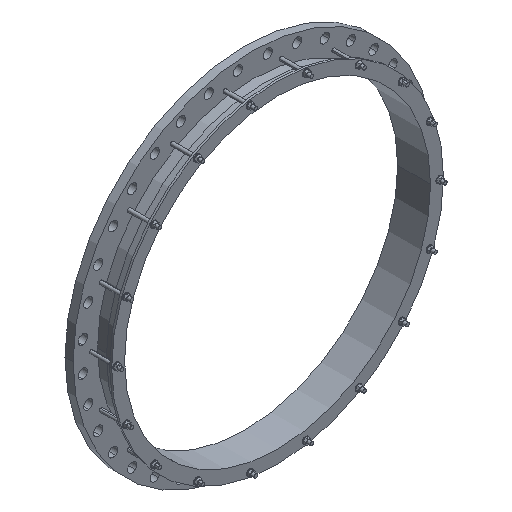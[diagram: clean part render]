
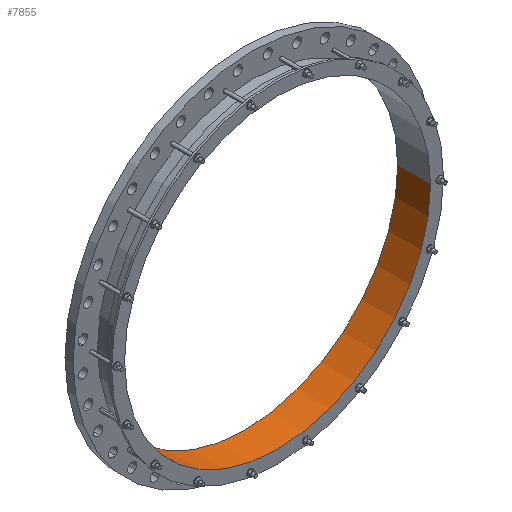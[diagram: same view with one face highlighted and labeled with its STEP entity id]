
A CAD part, isometric view. The second image highlights one B-rep face of the part: STEP entity #7855.
In plain terms, the highlighted cylindrical face has radius 712.75 mm (diameter 1425.5 mm), a partial arc.
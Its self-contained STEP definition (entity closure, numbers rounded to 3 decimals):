
#7=CARTESIAN_POINT('',(0.,38.,0.));
#8=DIRECTION('',(0.,1.,0.));
#9=DIRECTION('',(1.,0.,0.));
#10=AXIS2_PLACEMENT_3D('',#7,#8,#9);
#2138=CARTESIAN_POINT('',(0.,-115.,0.));
#2139=DIRECTION('',(0.,1.,0.));
#2140=DIRECTION('',(1.,0.,0.));
#2141=AXIS2_PLACEMENT_3D('',#2138,#2139,#2140);
#2143=DIRECTION('',(0.,1.,0.));
#2144=VECTOR('',#2143,153.);
#2145=CARTESIAN_POINT('',(712.75,-115.,0.));
#2146=LINE('',#2145,#2144);
#2147=DIRECTION('',(0.,1.,0.));
#2148=VECTOR('',#2147,153.);
#2149=CARTESIAN_POINT('',(-712.75,-115.,0.));
#2150=LINE('',#2149,#2148);
#5482=CARTESIAN_POINT('',(712.75,-115.,0.));
#5483=CARTESIAN_POINT('',(712.75,38.,0.));
#5484=VERTEX_POINT('',#5482);
#5485=VERTEX_POINT('',#5483);
#5494=CARTESIAN_POINT('',(-712.75,-115.,0.));
#5495=CARTESIAN_POINT('',(-712.75,38.,0.));
#5496=VERTEX_POINT('',#5494);
#5497=VERTEX_POINT('',#5495);
#7842=CARTESIAN_POINT('',(0.,-122.65,0.));
#7843=DIRECTION('',(0.,1.,0.));
#7844=DIRECTION('',(-1.,0.,0.));
#7845=AXIS2_PLACEMENT_3D('',#7842,#7843,#7844);
#7846=CYLINDRICAL_SURFACE('',#7845,712.75);
#7848=ORIENTED_EDGE('',*,*,#7847,.F.);
#7849=ORIENTED_EDGE('',*,*,#7729,.T.);
#7851=ORIENTED_EDGE('',*,*,#7850,.T.);
#7852=ORIENTED_EDGE('',*,*,#6719,.F.);
#7853=EDGE_LOOP('',(#7848,#7849,#7851,#7852));
#7854=FACE_OUTER_BOUND('',#7853,.F.);
#7855=ADVANCED_FACE('',(#7854),#7846,.F.);
#11=CIRCLE('',#10,712.75);
#2142=CIRCLE('',#2141,712.75);
#6719=EDGE_CURVE('',#5485,#5497,#11,.T.);
#7729=EDGE_CURVE('',#5484,#5496,#2142,.T.);
#7847=EDGE_CURVE('',#5484,#5485,#2146,.T.);
#7850=EDGE_CURVE('',#5496,#5497,#2150,.T.);
